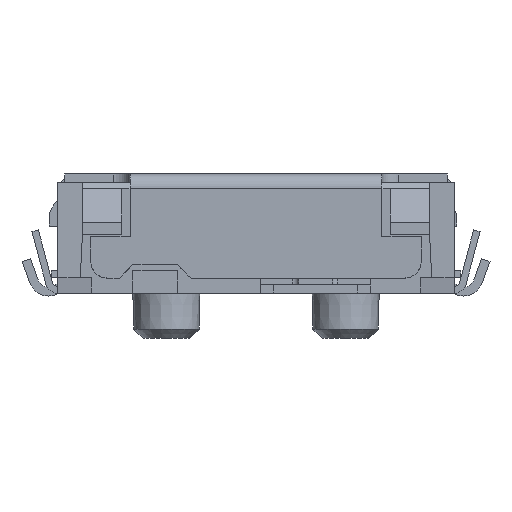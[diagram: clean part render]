
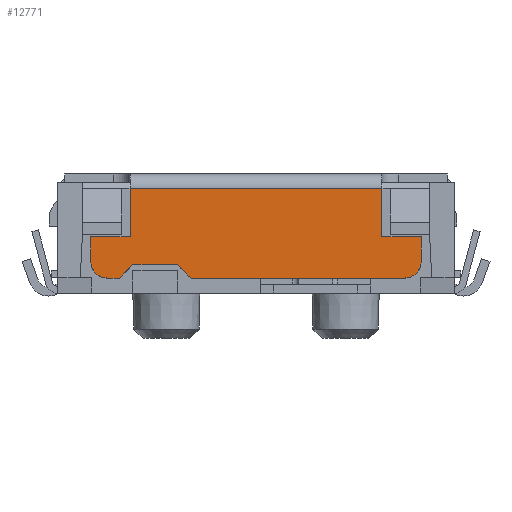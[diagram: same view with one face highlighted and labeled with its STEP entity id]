
A CAD part, front view. The second image highlights one B-rep face of the part: STEP entity #12771.
In plain terms, the highlighted planar face has unit normal (0, -1, 0).
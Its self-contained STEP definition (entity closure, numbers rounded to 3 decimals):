
#357 = EDGE_LOOP ( 'NONE', ( #8401, #8303, #8369, #8407, #8353, #8339, #8420, #8305, #8338, #8380, #8372, #8329, #15061, #15032 ) ) ;
#5210 = CARTESIAN_POINT ( 'NONE',  ( -1.26, -1.662, -0.065 ) ) ;
#5718 = AXIS2_PLACEMENT_3D ( 'NONE', #13399, #13412, #13413 ) ;
#5858 = AXIS2_PLACEMENT_3D ( 'NONE', #14799, #14800, #14801 ) ;
#5863 = AXIS2_PLACEMENT_3D ( 'NONE', #14790, #14797, #14798 ) ;
#6314 = FACE_OUTER_BOUND ( 'NONE', #357, .T. ) ;
#6593 = LINE ( 'NONE', #14786, #6600 ) ;
#6597 = LINE ( 'NONE', #14812, #6626 ) ;
#6598 = LINE ( 'NONE', #14788, #6599 ) ;
#6599 = VECTOR ( 'NONE', #14789, 1000. ) ;
#6600 = VECTOR ( 'NONE', #14791, 1000. ) ;
#6601 = VECTOR ( 'NONE', #14803, 1000. ) ;
#6604 = LINE ( 'NONE', #14794, #6605 ) ;
#6605 = VECTOR ( 'NONE', #14795, 1000. ) ;
#6606 = LINE ( 'NONE', #14802, #6601 ) ;
#6607 = CIRCLE ( 'NONE', #5863, 0.15 ) ;
#6608 = LINE ( 'NONE', #14796, #6614 ) ;
#6609 = CIRCLE ( 'NONE', #5858, 0.15 ) ;
#6610 = LINE ( 'NONE', #14804, #6611 ) ;
#6611 = VECTOR ( 'NONE', #14805, 1000. ) ;
#6612 = LINE ( 'NONE', #14806, #6613 ) ;
#6613 = VECTOR ( 'NONE', #14807, 1000. ) ;
#6614 = VECTOR ( 'NONE', #14809, 1000. ) ;
#6616 = LINE ( 'NONE', #14810, #6617 ) ;
#6617 = VECTOR ( 'NONE', #14811, 1000. ) ;
#6624 = LINE ( 'NONE', #14819, #6625 ) ;
#6625 = VECTOR ( 'NONE', #14820, 1000. ) ;
#6626 = VECTOR ( 'NONE', #14822, 1000. ) ;
#6632 = LINE ( 'NONE', #14827, #6633 ) ;
#6633 = VECTOR ( 'NONE', #14828, 1000. ) ;
#7030 = VERTEX_POINT ( 'NONE', #9604 ) ;
#7050 = VERTEX_POINT ( 'NONE', #9616 ) ;
#7099 = VERTEX_POINT ( 'NONE', #9642 ) ;
#7281 = VERTEX_POINT ( 'NONE', #9763 ) ;
#7292 = VERTEX_POINT ( 'NONE', #9769 ) ;
#7324 = VERTEX_POINT ( 'NONE', #9787 ) ;
#8303 = ORIENTED_EDGE ( 'NONE', *, *, #15135, .T. ) ;
#8305 = ORIENTED_EDGE ( 'NONE', *, *, #15146, .T. ) ;
#8329 = ORIENTED_EDGE ( 'NONE', *, *, #15132, .F. ) ;
#8338 = ORIENTED_EDGE ( 'NONE', *, *, #15138, .F. ) ;
#8339 = ORIENTED_EDGE ( 'NONE', *, *, #15136, .F. ) ;
#8353 = ORIENTED_EDGE ( 'NONE', *, *, #15137, .F. ) ;
#8369 = ORIENTED_EDGE ( 'NONE', *, *, #15143, .F. ) ;
#8372 = ORIENTED_EDGE ( 'NONE', *, *, #15129, .F. ) ;
#8380 = ORIENTED_EDGE ( 'NONE', *, *, #15131, .F. ) ;
#8401 = ORIENTED_EDGE ( 'NONE', *, *, #15134, .T. ) ;
#8407 = ORIENTED_EDGE ( 'NONE', *, *, #15133, .F. ) ;
#8420 = ORIENTED_EDGE ( 'NONE', *, *, #15142, .F. ) ;
#9604 = CARTESIAN_POINT ( 'NONE',  ( -1.14, -1.662, 0.055 ) ) ;
#9616 = CARTESIAN_POINT ( 'NONE',  ( -1.365, -1.662, -0.065 ) ) ;
#9642 = CARTESIAN_POINT ( 'NONE',  ( -0.62, -1.662, -0.065 ) ) ;
#9763 = CARTESIAN_POINT ( 'NONE',  ( -1.515, -1.662, 0.085 ) ) ;
#9769 = CARTESIAN_POINT ( 'NONE',  ( -1.515, -1.662, 0.305 ) ) ;
#9787 = CARTESIAN_POINT ( 'NONE',  ( 1.435, -1.662, 0.305 ) ) ;
#11081 = LINE ( 'NONE', #14958, #11097 ) ;
#11097 = VECTOR ( 'NONE', #14965, 1000. ) ;
#12565 = VERTEX_POINT ( 'NONE', #5210 ) ;
#12752 = VERTEX_POINT ( 'NONE', #13294 ) ;
#12771 = ADVANCED_FACE ( 'NONE', ( #6314 ), #13402, .F. ) ;
#12852 = VERTEX_POINT ( 'NONE', #14063 ) ;
#12969 = VERTEX_POINT ( 'NONE', #14264 ) ;
#13055 = VERTEX_POINT ( 'NONE', #14391 ) ;
#13059 = VERTEX_POINT ( 'NONE', #14395 ) ;
#13061 = VERTEX_POINT ( 'NONE', #14397 ) ;
#13156 = VERTEX_POINT ( 'NONE', #14539 ) ;
#13294 = CARTESIAN_POINT ( 'NONE',  ( 1.085, -1.662, 0.735 ) ) ;
#13399 = CARTESIAN_POINT ( 'NONE',  ( -1.165, -1.662, 0.785 ) ) ;
#13402 = PLANE ( 'NONE',  #5718 ) ;
#13412 = DIRECTION ( 'NONE',  ( 0., 1., 0. ) ) ;
#13413 = DIRECTION ( 'NONE',  ( 0., 0., 1. ) ) ;
#14063 = CARTESIAN_POINT ( 'NONE',  ( 1.435, -1.662, 0.085 ) ) ;
#14264 = CARTESIAN_POINT ( 'NONE',  ( 1.285, -1.662, -0.065 ) ) ;
#14391 = CARTESIAN_POINT ( 'NONE',  ( -1.165, -1.662, 0.735 ) ) ;
#14395 = CARTESIAN_POINT ( 'NONE',  ( -0.74, -1.662, 0.055 ) ) ;
#14397 = CARTESIAN_POINT ( 'NONE',  ( 1.085, -1.662, 0.305 ) ) ;
#14539 = CARTESIAN_POINT ( 'NONE',  ( -1.165, -1.662, 0.305 ) ) ;
#14786 = CARTESIAN_POINT ( 'NONE',  ( -1.515, -1.662, 0.305 ) ) ;
#14788 = CARTESIAN_POINT ( 'NONE',  ( -1.14, -1.662, 0.055 ) ) ;
#14789 = DIRECTION ( 'NONE',  ( 0.707, 0., 0.707 ) ) ;
#14790 = CARTESIAN_POINT ( 'NONE',  ( -1.365, -1.662, 0.085 ) ) ;
#14791 = DIRECTION ( 'NONE',  ( 0., 0., 1. ) ) ;
#14794 = CARTESIAN_POINT ( 'NONE',  ( 1.435, -1.662, 0.305 ) ) ;
#14795 = DIRECTION ( 'NONE',  ( 1., 0., 0. ) ) ;
#14796 = CARTESIAN_POINT ( 'NONE',  ( 1.435, -1.662, 0.085 ) ) ;
#14797 = DIRECTION ( 'NONE',  ( 0., 1., 0. ) ) ;
#14798 = DIRECTION ( 'NONE',  ( 0., 0., 1. ) ) ;
#14799 = CARTESIAN_POINT ( 'NONE',  ( 1.285, -1.662, 0.085 ) ) ;
#14800 = DIRECTION ( 'NONE',  ( 0., 1., 0. ) ) ;
#14801 = DIRECTION ( 'NONE',  ( 0., 0., -1. ) ) ;
#14802 = CARTESIAN_POINT ( 'NONE',  ( -0.74, -1.662, 0.055 ) ) ;
#14803 = DIRECTION ( 'NONE',  ( 1., 0., 0. ) ) ;
#14804 = CARTESIAN_POINT ( 'NONE',  ( -0.62, -1.662, -0.065 ) ) ;
#14805 = DIRECTION ( 'NONE',  ( 0.707, 0., -0.707 ) ) ;
#14806 = CARTESIAN_POINT ( 'NONE',  ( 1.435, -1.662, 0.305 ) ) ;
#14807 = DIRECTION ( 'NONE',  ( 1., 0., 0. ) ) ;
#14809 = DIRECTION ( 'NONE',  ( 0., 0., -1. ) ) ;
#14810 = CARTESIAN_POINT ( 'NONE',  ( -1.165, -1.662, 0.785 ) ) ;
#14811 = DIRECTION ( 'NONE',  ( 0., 0., 1. ) ) ;
#14812 = CARTESIAN_POINT ( 'NONE',  ( -1.365, -1.662, -0.065 ) ) ;
#14819 = CARTESIAN_POINT ( 'NONE',  ( 1.085, -1.662, 0.305 ) ) ;
#14820 = DIRECTION ( 'NONE',  ( 0., 0., -1. ) ) ;
#14822 = DIRECTION ( 'NONE',  ( -1., 0., 0. ) ) ;
#14827 = CARTESIAN_POINT ( 'NONE',  ( -1.165, -1.662, 0.735 ) ) ;
#14828 = DIRECTION ( 'NONE',  ( -1., 0., 0. ) ) ;
#14958 = CARTESIAN_POINT ( 'NONE',  ( -1.365, -1.662, -0.065 ) ) ;
#14965 = DIRECTION ( 'NONE',  ( -1., 0., 0. ) ) ;
#15032 = ORIENTED_EDGE ( 'NONE', *, *, #15128, .T. ) ;
#15061 = ORIENTED_EDGE ( 'NONE', *, *, #15208, .F. ) ;
#15128 = EDGE_CURVE ( 'NONE', #12565, #7030, #6598, .T. ) ;
#15129 = EDGE_CURVE ( 'NONE', #7281, #7292, #6593, .T. ) ;
#15131 = EDGE_CURVE ( 'NONE', #7292, #13156, #6604, .T. ) ;
#15132 = EDGE_CURVE ( 'NONE', #7050, #7281, #6607, .T. ) ;
#15133 = EDGE_CURVE ( 'NONE', #12852, #12969, #6609, .T. ) ;
#15134 = EDGE_CURVE ( 'NONE', #7030, #13059, #6606, .T. ) ;
#15135 = EDGE_CURVE ( 'NONE', #13059, #7099, #6610, .T. ) ;
#15136 = EDGE_CURVE ( 'NONE', #13061, #7324, #6612, .T. ) ;
#15137 = EDGE_CURVE ( 'NONE', #7324, #12852, #6608, .T. ) ;
#15138 = EDGE_CURVE ( 'NONE', #13156, #13055, #6616, .T. ) ;
#15142 = EDGE_CURVE ( 'NONE', #12752, #13061, #6624, .T. ) ;
#15143 = EDGE_CURVE ( 'NONE', #12969, #7099, #6597, .T. ) ;
#15146 = EDGE_CURVE ( 'NONE', #12752, #13055, #6632, .T. ) ;
#15208 = EDGE_CURVE ( 'NONE', #12565, #7050, #11081, .T. ) ;
